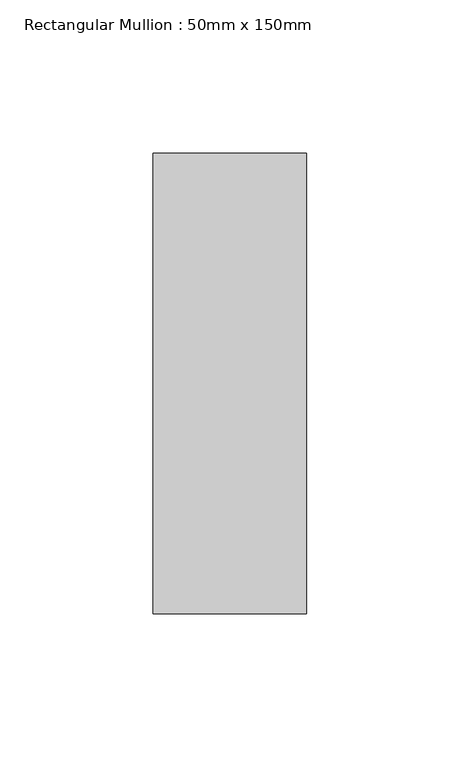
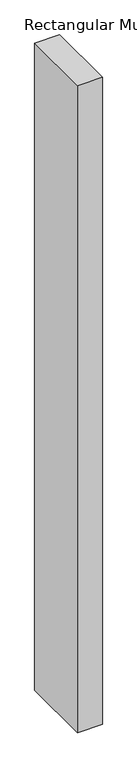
"""IFC4 building model written with IfcOpenShell, lengths in millimetres: member geometry, Rectangular Mullion : 50mm x 150mm."""

from ifc_helpers import new_model, si_unit, frame, origin, place, context, project, spatial, polyline, outline, extrude, source, transform, mapped, element, save


def rectangular_mullion_50mm_x_150mm_758487db(model_context):
    return source(origin(), model_context, "Body", "SweptSolid", [
        extrude(outline(polyline([(0.0, 75.0), (0.0, -75.0), (-50.0, -75.0), (-50.0, 75.0), (0.0, 75.0)])), frame((0.0, 0.0, -1383.1666669), z_axis=(0.0, 0.0, 1.0), x_axis=(1.0, 0.0, 0.0)), (0.0, 0.0, 1.0), 1383.1666669),
    ])


if __name__ == "__main__":
    model = new_model("IFC4")
    model_context = context("Model", 3, world=origin())
    ifc_project = project(units=[si_unit("LENGTHUNIT", "METRE", prefix="MILLI")], contexts=[model_context])
    site = spatial("IfcSite", under=ifc_project)
    building = spatial("IfcBuilding", under=site)
    placement = place(None, origin())
    rectangular_mullion_50mm_x_150mm_shape = rectangular_mullion_50mm_x_150mm_758487db(model_context)
    element("IfcMember", 1, ObjectType="Rectangular Mullion : 50mm x 150mm", at=placement, inside=building, context=model_context, shape_type="MappedRepresentation", body=[
        mapped(rectangular_mullion_50mm_x_150mm_shape, transform((0.0, 0.0, 0.0), x_axis=(1.0, 0.0, 0.0), y_axis=(0.0, 1.0, 0.0), z_axis=(0.0, 0.0, 1.0))),
    ])
    save(model, "model.ifc")
